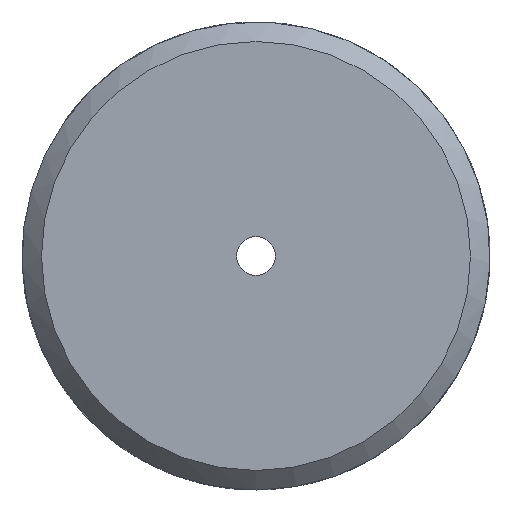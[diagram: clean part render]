
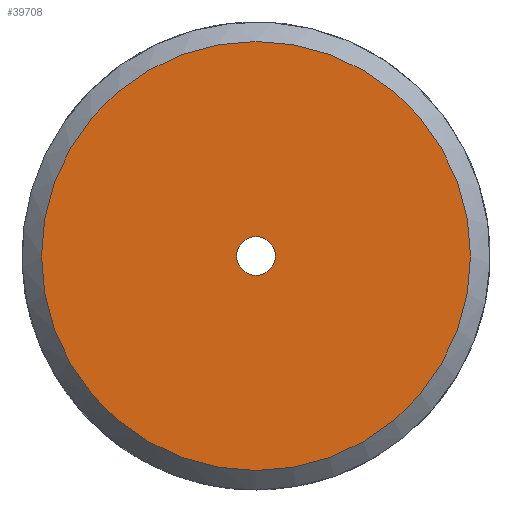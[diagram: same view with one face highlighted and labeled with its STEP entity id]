
A CAD part, left-side view. The second image highlights one B-rep face of the part: STEP entity #39708.
In plain terms, the highlighted planar face has unit normal (-1, 0, 0).
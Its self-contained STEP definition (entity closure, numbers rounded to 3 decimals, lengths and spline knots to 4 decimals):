
#11867=PLANE('',#39227);
#15202=ORIENTED_EDGE('',*,*,#17674,.F.);
#15203=ORIENTED_EDGE('',*,*,#17673,.F.);
#15662=CIRCLE('',#39226,0.5);
#15663=CIRCLE('',#39228,5.5);
#16489=VERTEX_POINT('',#38420);
#16490=VERTEX_POINT('',#38423);
#17673=EDGE_CURVE('',#16489,#16489,#15662,.T.);
#17674=EDGE_CURVE('',#16490,#16490,#15663,.T.);
#18038=EDGE_LOOP('',(#15202));
#18039=EDGE_LOOP('',(#15203));
#18405=FACE_BOUND('',#18038,.T.);
#18406=FACE_BOUND('',#18039,.T.);
#20005=DIRECTION('',(-1.,0.,0.));
#20006=DIRECTION('',(0.,-0.5,0.));
#20007=DIRECTION('',(-1.,0.,0.));
#20008=DIRECTION('',(0.,1.,0.));
#20009=DIRECTION('',(1.,0.,0.));
#20010=DIRECTION('',(0.,0.,-5.5));
#38420=CARTESIAN_POINT('',(43.815,118.2989,0.));
#38421=CARTESIAN_POINT('',(43.815,118.7989,0.));
#38422=CARTESIAN_POINT('',(43.815,118.7989,-5.5));
#38423=CARTESIAN_POINT('',(43.815,118.7989,-5.5));
#38424=CARTESIAN_POINT('',(43.815,118.7989,0.));
#39226=AXIS2_PLACEMENT_3D('',#38421,#20005,#20006);
#39227=AXIS2_PLACEMENT_3D('',#38422,#20007,#20008);
#39228=AXIS2_PLACEMENT_3D('',#38424,#20009,#20010);
#39708=ADVANCED_FACE('',(#18405,#18406),#11867,.T.);
